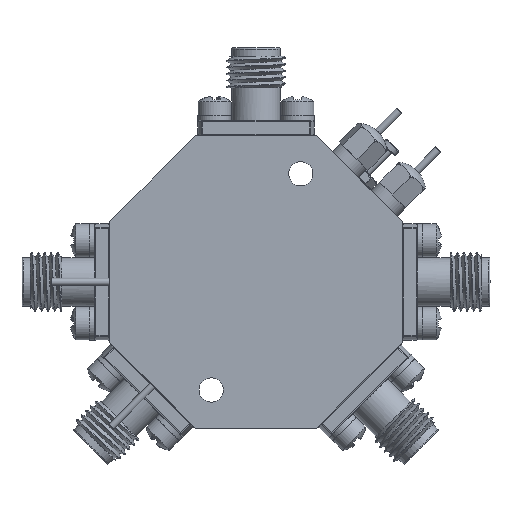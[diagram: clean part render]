
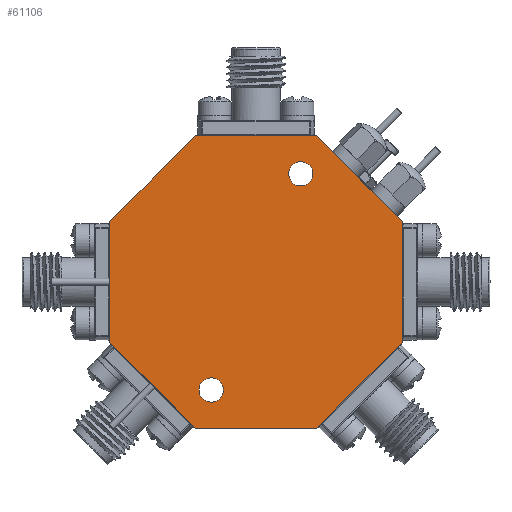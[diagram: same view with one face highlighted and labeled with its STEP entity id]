
A CAD part, front view. The second image highlights one B-rep face of the part: STEP entity #61106.
In plain terms, the highlighted planar face has unit normal (0, -1, 0).
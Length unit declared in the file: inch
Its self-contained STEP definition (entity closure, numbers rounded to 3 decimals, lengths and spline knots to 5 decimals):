
#88 = VECTOR ( 'NONE', #9847, 39.37008 ) ;
#1479 = VECTOR ( 'NONE', #46860, 39.37008 ) ;
#1492 = CARTESIAN_POINT ( 'NONE',  ( -0.25888, -0.35, 0.625 ) ) ;
#1515 = EDGE_CURVE ( 'NONE', #4367, #64024, #3183, .T. ) ;
#2804 = DIRECTION ( 'NONE',  ( 0., 0., -1. ) ) ;
#3183 = LINE ( 'NONE', #29995, #4047 ) ;
#3920 = LINE ( 'NONE', #25430, #1479 ) ;
#4047 = VECTOR ( 'NONE', #35593, 39.37008 ) ;
#4367 = VERTEX_POINT ( 'NONE', #27759 ) ;
#4689 = CARTESIAN_POINT ( 'NONE',  ( 0., -0.35, 0. ) ) ;
#4897 = VECTOR ( 'NONE', #65949, 39.37008 ) ;
#6600 = DIRECTION ( 'NONE',  ( 0., 1., 0. ) ) ;
#7469 = EDGE_CURVE ( 'NONE', #20378, #35095, #48214, .T. ) ;
#7673 = DIRECTION ( 'NONE',  ( 0., 0., 1. ) ) ;
#7859 = CARTESIAN_POINT ( 'NONE',  ( -0.25888, -0.35, 0.625 ) ) ;
#8932 = PLANE ( 'NONE',  #67522 ) ;
#9592 = EDGE_LOOP ( 'NONE', ( #22934 ) ) ;
#9847 = DIRECTION ( 'NONE',  ( 0.707, 0., 0.707 ) ) ;
#10305 = VECTOR ( 'NONE', #15645, 39.37008 ) ;
#10323 = ORIENTED_EDGE ( 'NONE', *, *, #7469, .F. ) ;
#10561 = ORIENTED_EDGE ( 'NONE', *, *, #40126, .F. ) ;
#10664 = VECTOR ( 'NONE', #57116, 39.37008 ) ;
#10901 = VERTEX_POINT ( 'NONE', #24196 ) ;
#11229 = CARTESIAN_POINT ( 'NONE',  ( -0.625, -0.35, 0.25888 ) ) ;
#13878 = CARTESIAN_POINT ( 'NONE',  ( 0.19134, -0.35, 0.51394 ) ) ;
#15455 = EDGE_CURVE ( 'NONE', #41656, #41656, #40300, .T. ) ;
#15645 = DIRECTION ( 'NONE',  ( -0.707, 0., -0.707 ) ) ;
#17340 = ORIENTED_EDGE ( 'NONE', *, *, #34725, .F. ) ;
#18718 = CARTESIAN_POINT ( 'NONE',  ( 0.625, -0.35, -0.25888 ) ) ;
#19174 = FACE_BOUND ( 'NONE', #54114, .T. ) ;
#20236 = ORIENTED_EDGE ( 'NONE', *, *, #1515, .F. ) ;
#20378 = VERTEX_POINT ( 'NONE', #51235 ) ;
#21645 = DIRECTION ( 'NONE',  ( 0., 0., 1. ) ) ;
#22934 = ORIENTED_EDGE ( 'NONE', *, *, #15455, .T. ) ;
#24196 = CARTESIAN_POINT ( 'NONE',  ( 0.25888, -0.35, -0.625 ) ) ;
#25430 = CARTESIAN_POINT ( 'NONE',  ( 0.25888, -0.35, -0.625 ) ) ;
#27265 = EDGE_CURVE ( 'NONE', #10901, #58999, #3920, .T. ) ;
#27594 = VECTOR ( 'NONE', #67001, 39.37008 ) ;
#27693 = CARTESIAN_POINT ( 'NONE',  ( -0.625, -0.35, -0.25888 ) ) ;
#27759 = CARTESIAN_POINT ( 'NONE',  ( 0.25888, -0.35, 0.625 ) ) ;
#28441 = VERTEX_POINT ( 'NONE', #27693 ) ;
#28627 = EDGE_CURVE ( 'NONE', #58999, #28441, #50756, .T. ) ;
#29407 = VERTEX_POINT ( 'NONE', #13878 ) ;
#29606 = LINE ( 'NONE', #62654, #41435 ) ;
#29995 = CARTESIAN_POINT ( 'NONE',  ( 0.25888, -0.35, 0.625 ) ) ;
#31498 = FACE_OUTER_BOUND ( 'NONE', #62620, .T. ) ;
#33204 = AXIS2_PLACEMENT_3D ( 'NONE', #49952, #6600, #34140 ) ;
#33226 = CARTESIAN_POINT ( 'NONE',  ( -0.25888, -0.35, -0.625 ) ) ;
#33386 = ORIENTED_EDGE ( 'NONE', *, *, #27265, .F. ) ;
#34140 = DIRECTION ( 'NONE',  ( 0., 0., 1. ) ) ;
#34725 = EDGE_CURVE ( 'NONE', #28441, #20378, #56414, .T. ) ;
#35095 = VERTEX_POINT ( 'NONE', #7859 ) ;
#35593 = DIRECTION ( 'NONE',  ( 0.707, 0., -0.707 ) ) ;
#37445 = CARTESIAN_POINT ( 'NONE',  ( 0.625, -0.35, -0.25888 ) ) ;
#39120 = LINE ( 'NONE', #1492, #4897 ) ;
#39496 = ORIENTED_EDGE ( 'NONE', *, *, #46397, .F. ) ;
#40126 = EDGE_CURVE ( 'NONE', #35095, #4367, #39120, .T. ) ;
#40237 = VERTEX_POINT ( 'NONE', #18718 ) ;
#40300 = CIRCLE ( 'NONE', #62998, 0.052 ) ;
#41334 = EDGE_CURVE ( 'NONE', #29407, #29407, #56816, .T. ) ;
#41435 = VECTOR ( 'NONE', #2804, 39.37008 ) ;
#41509 = ORIENTED_EDGE ( 'NONE', *, *, #41334, .T. ) ;
#41656 = VERTEX_POINT ( 'NONE', #58652 ) ;
#42533 = CARTESIAN_POINT ( 'NONE',  ( 0.625, -0.35, 0.25888 ) ) ;
#46397 = EDGE_CURVE ( 'NONE', #64024, #40237, #29606, .T. ) ;
#46860 = DIRECTION ( 'NONE',  ( -1., 0., 0. ) ) ;
#48025 = DIRECTION ( 'NONE',  ( 0., 1., 0. ) ) ;
#48214 = LINE ( 'NONE', #11229, #88 ) ;
#49952 = CARTESIAN_POINT ( 'NONE',  ( 0.19134, -0.35, 0.46194 ) ) ;
#50756 = LINE ( 'NONE', #33226, #27594 ) ;
#51235 = CARTESIAN_POINT ( 'NONE',  ( -0.625, -0.35, 0.25888 ) ) ;
#54114 = EDGE_LOOP ( 'NONE', ( #41509 ) ) ;
#54720 = ORIENTED_EDGE ( 'NONE', *, *, #28627, .F. ) ;
#56414 = LINE ( 'NONE', #67683, #10664 ) ;
#56816 = CIRCLE ( 'NONE', #33204, 0.052 ) ;
#57116 = DIRECTION ( 'NONE',  ( 0., 0., 1. ) ) ;
#58652 = CARTESIAN_POINT ( 'NONE',  ( -0.19134, -0.35, -0.40994 ) ) ;
#58999 = VERTEX_POINT ( 'NONE', #64449 ) ;
#61106 = ADVANCED_FACE ( 'NONE', ( #19174, #68799, #31498 ), #8932, .F. ) ;
#61170 = EDGE_CURVE ( 'NONE', #40237, #10901, #64247, .T. ) ;
#61620 = CARTESIAN_POINT ( 'NONE',  ( -0.19134, -0.35, -0.46194 ) ) ;
#62620 = EDGE_LOOP ( 'NONE', ( #10323, #17340, #54720, #33386, #68817, #39496, #20236, #10561 ) ) ;
#62654 = CARTESIAN_POINT ( 'NONE',  ( 0.625, -0.35, 0.25888 ) ) ;
#62998 = AXIS2_PLACEMENT_3D ( 'NONE', #61620, #66557, #7673 ) ;
#64024 = VERTEX_POINT ( 'NONE', #42533 ) ;
#64247 = LINE ( 'NONE', #37445, #10305 ) ;
#64449 = CARTESIAN_POINT ( 'NONE',  ( -0.25888, -0.35, -0.625 ) ) ;
#65949 = DIRECTION ( 'NONE',  ( 1., 0., 0. ) ) ;
#66557 = DIRECTION ( 'NONE',  ( 0., 1., 0. ) ) ;
#67001 = DIRECTION ( 'NONE',  ( -0.707, 0., 0.707 ) ) ;
#67522 = AXIS2_PLACEMENT_3D ( 'NONE', #4689, #48025, #21645 ) ;
#67683 = CARTESIAN_POINT ( 'NONE',  ( -0.625, -0.35, -0.25888 ) ) ;
#68799 = FACE_BOUND ( 'NONE', #9592, .T. ) ;
#68817 = ORIENTED_EDGE ( 'NONE', *, *, #61170, .F. ) ;
